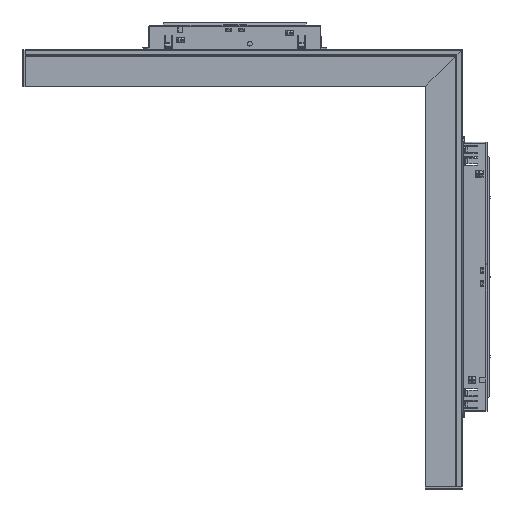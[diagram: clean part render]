
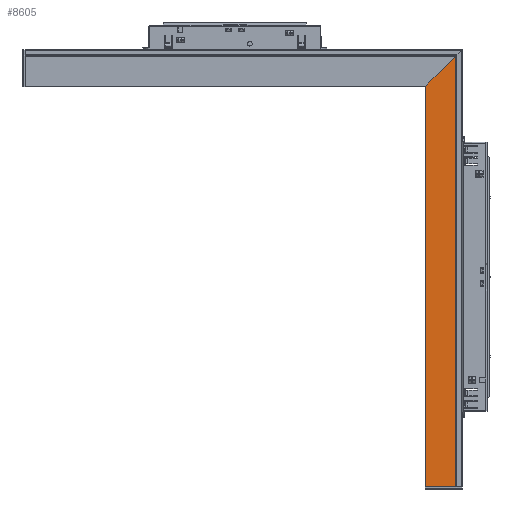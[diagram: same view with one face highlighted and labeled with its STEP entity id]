
A CAD part, left-side view. The second image highlights one B-rep face of the part: STEP entity #8605.
In plain terms, the highlighted planar face has unit normal (-1, 0, 0).
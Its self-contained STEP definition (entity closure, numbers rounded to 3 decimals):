
#19 = VERTEX_POINT ( 'NONE', #35665 ) ;
#8605 = ADVANCED_FACE ( 'NONE', ( #137953 ), #35971, .F. ) ;
#13130 = EDGE_CURVE ( 'NONE', #133115, #54279, #49716, .T. ) ;
#14947 = ORIENTED_EDGE ( 'NONE', *, *, #29463, .F. ) ;
#16222 = DIRECTION ( 'NONE',  ( 0., 0., 1. ) ) ;
#23218 = AXIS2_PLACEMENT_3D ( 'NONE', #81408, #126781, #24806 ) ;
#24806 = DIRECTION ( 'NONE',  ( 0., 0., -1. ) ) ;
#29073 = ORIENTED_EDGE ( 'NONE', *, *, #138030, .F. ) ;
#29463 = EDGE_CURVE ( 'NONE', #138976, #19, #42270, .T. ) ;
#35665 = CARTESIAN_POINT ( 'NONE',  ( -11., 24.901, -150. ) ) ;
#35855 = CARTESIAN_POINT ( 'NONE',  ( -11., 24.901, 125.099 ) ) ;
#35971 = PLANE ( 'NONE',  #23218 ) ;
#42270 = LINE ( 'NONE', #87695, #112203 ) ;
#44340 = CARTESIAN_POINT ( 'NONE',  ( -11., 4.5, 150. ) ) ;
#49716 = LINE ( 'NONE', #95164, #74902 ) ;
#54279 = VERTEX_POINT ( 'NONE', #91209 ) ;
#72783 = LINE ( 'NONE', #118176, #86458 ) ;
#74902 = VECTOR ( 'NONE', #140532, 1000. ) ;
#81408 = CARTESIAN_POINT ( 'NONE',  ( -11., 24.901, 150. ) ) ;
#86458 = VECTOR ( 'NONE', #16222, 1000. ) ;
#87695 = CARTESIAN_POINT ( 'NONE',  ( -11., 21.588, -150. ) ) ;
#89769 = DIRECTION ( 'NONE',  ( 0., 0., -1. ) ) ;
#91209 = CARTESIAN_POINT ( 'NONE',  ( -11., 4.5, 145.5 ) ) ;
#94762 = VECTOR ( 'NONE', #89769, 1000. ) ;
#95164 = CARTESIAN_POINT ( 'NONE',  ( -11., 0., 150. ) ) ;
#107741 = EDGE_LOOP ( 'NONE', ( #134729, #141601, #14947, #29073 ) ) ;
#112203 = VECTOR ( 'NONE', #133096, 1000. ) ;
#114689 = CARTESIAN_POINT ( 'NONE',  ( -11., 4.5, -150. ) ) ;
#118176 = CARTESIAN_POINT ( 'NONE',  ( -11., 24.901, 150. ) ) ;
#118292 = EDGE_CURVE ( 'NONE', #19, #133115, #72783, .T. ) ;
#126781 = DIRECTION ( 'NONE',  ( 1., 0., 0. ) ) ;
#133096 = DIRECTION ( 'NONE',  ( 0., 1., 0. ) ) ;
#133115 = VERTEX_POINT ( 'NONE', #35855 ) ;
#134729 = ORIENTED_EDGE ( 'NONE', *, *, #13130, .F. ) ;
#137953 = FACE_OUTER_BOUND ( 'NONE', #107741, .T. ) ;
#138030 = EDGE_CURVE ( 'NONE', #54279, #138976, #146337, .T. ) ;
#138976 = VERTEX_POINT ( 'NONE', #114689 ) ;
#140532 = DIRECTION ( 'NONE',  ( 0., -0.707, 0.707 ) ) ;
#141601 = ORIENTED_EDGE ( 'NONE', *, *, #118292, .F. ) ;
#146337 = LINE ( 'NONE', #44340, #94762 ) ;
